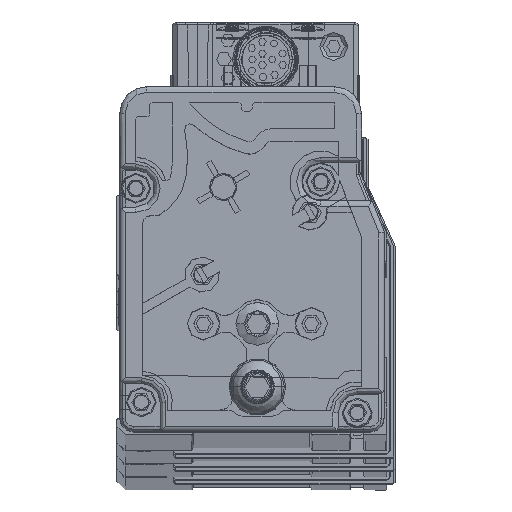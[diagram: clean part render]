
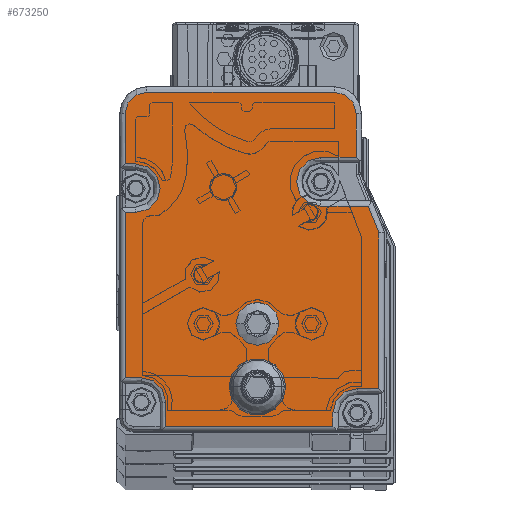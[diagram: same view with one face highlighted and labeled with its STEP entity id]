
A CAD part, top view. The second image highlights one B-rep face of the part: STEP entity #673250.
In plain terms, the highlighted planar face has unit normal (0, 0, 1).
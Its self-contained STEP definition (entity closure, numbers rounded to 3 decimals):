
#563300=CARTESIAN_POINT('',(-20.559,52.924,
2558.89));
#563310=DIRECTION('',(-1.,0.,0.));
#563320=VECTOR('',#563310,1.);
#563330=LINE('',#563300,#563320);
#563340=CARTESIAN_POINT('',(-25.759,52.924,
2558.89));
#563350=VERTEX_POINT('',#563340);
#563360=CARTESIAN_POINT('',(-32.309,52.924,
2558.89));
#563370=VERTEX_POINT('',#563360);
#563380=EDGE_CURVE('',#563350,#563370,#563330,.T.);
#580690=CARTESIAN_POINT('',(-30.059,2.124,
2558.89));
#580700=DIRECTION('',(0.,1.,0.));
#580710=VECTOR('',#580700,1.);
#580720=LINE('',#580690,#580710);
#580730=CARTESIAN_POINT('',(-30.059,3.124,
2558.89));
#580740=VERTEX_POINT('',#580730);
#580750=CARTESIAN_POINT('',(-30.059,5.624,
2558.89));
#580760=VERTEX_POINT('',#580750);
#580770=EDGE_CURVE('',#580740,#580760,#580720,.T.);
#615480=CARTESIAN_POINT('',(-21.559,2.124,
2558.89));
#615490=DIRECTION('',(0.,-1.,0.));
#615500=VECTOR('',#615490,1.);
#615510=LINE('',#615480,#615500);
#615520=CARTESIAN_POINT('',(-21.559,38.937,
2558.89));
#615530=VERTEX_POINT('',#615520);
#615540=CARTESIAN_POINT('',(-21.559,10.124,
2558.89));
#615550=VERTEX_POINT('',#615540);
#615560=EDGE_CURVE('',#615530,#615550,#615510,.T.);
#616220=CARTESIAN_POINT('',(-25.759,61.024,
2558.89));
#616230=VERTEX_POINT('',#616220);
#616260=CARTESIAN_POINT('',(-29.759,61.024,
2558.89));
#616270=DIRECTION('',(0.,0.,1.));
#616280=DIRECTION('',(1.,0.,0.));
#616290=AXIS2_PLACEMENT_3D('',#616260,#616270,#616280);
#616300=CIRCLE('',#616290,4.);
#616310=CARTESIAN_POINT('',(-29.759,65.024,
2558.89));
#616320=VERTEX_POINT('',#616310);
#616330=EDGE_CURVE('',#616230,#616320,#616300,.T.);
#617100=CARTESIAN_POINT('',(-20.559,12.124,
2558.89));
#617110=DIRECTION('',(1.,0.,0.));
#617120=VECTOR('',#617110,1.);
#617130=LINE('',#617100,#617120);
#617140=CARTESIAN_POINT('',(-68.559,12.124,
2558.89));
#617150=VERTEX_POINT('',#617140);
#617160=CARTESIAN_POINT('',(-65.559,12.124,
2558.89));
#617170=VERTEX_POINT('',#617160);
#617180=EDGE_CURVE('',#617150,#617170,#617130,.T.);
#618540=CARTESIAN_POINT('',(-68.559,2.124,
2558.89));
#618550=DIRECTION('',(0.,-1.,0.));
#618560=VECTOR('',#618550,1.);
#618570=LINE('',#618540,#618560);
#618580=CARTESIAN_POINT('',(-68.559,61.024,
2558.89));
#618590=VERTEX_POINT('',#618580);
#618600=CARTESIAN_POINT('',(-68.559,51.727,
2558.89));
#618610=VERTEX_POINT('',#618600);
#618620=EDGE_CURVE('',#618590,#618610,#618570,.T.);
#650110=CARTESIAN_POINT('',(-32.309,48.424,
2558.89));
#650120=DIRECTION('',(0.,0.,-1.));
#650130=DIRECTION('',(-1.,0.,0.));
#650140=AXIS2_PLACEMENT_3D('',#650110,#650120,#650130);
#650150=CIRCLE('',#650140,4.5);
#650160=CARTESIAN_POINT('',(-32.309,43.924,
2558.89));
#650170=VERTEX_POINT('',#650160);
#650180=EDGE_CURVE('',#650170,#563370,#650150,.T.);
#671560=CARTESIAN_POINT('',(-7.243,2.124,
2558.89));
#671570=DIRECTION('',(0.362,-0.932,0.));
#671580=VECTOR('',#671570,1.);
#671590=LINE('',#671560,#671580);
#671600=CARTESIAN_POINT('',(-23.499,43.924,
2558.89));
#671610=VERTEX_POINT('',#671600);
#671620=EDGE_CURVE('',#671610,#615530,#671590,.T.);
#671840=CARTESIAN_POINT('',(-20.265,1.758,
2558.89));
#671850=DIRECTION('',(0.,0.,-1.));
#671860=DIRECTION('',(-1.,0.,0.));
#671870=AXIS2_PLACEMENT_3D('',#671840,#671850,#671860);
#671880=PLANE('',#671870);
#671890=CARTESIAN_POINT('',(-44.056,10.421,
2558.89));
#671900=DIRECTION('',(0.,0.,-1.));
#671910=DIRECTION('',(-1.,0.,0.));
#671920=AXIS2_PLACEMENT_3D('',#671890,#671900,#671910);
#671930=CIRCLE('',#671920,5.);
#671940=CARTESIAN_POINT('',(-39.056,10.421,
2558.89));
#671950=VERTEX_POINT('',#671940);
#671960=CARTESIAN_POINT('',(-49.056,10.421,
2558.89));
#671970=VERTEX_POINT('',#671960);
#671980=EDGE_CURVE('',#671950,#671970,#671930,.T.);
#671990=ORIENTED_EDGE('',*,*,#671980,.T.);
#672000=EDGE_CURVE('',#671970,#671950,#671930,.T.);
#672010=ORIENTED_EDGE('',*,*,#672000,.T.);
#672020=EDGE_LOOP('',(#672010,#671990));
#672030=FACE_BOUND('',#672020,.T.);
#672040=CARTESIAN_POINT('',(-44.059,22.124,
2558.89));
#672050=DIRECTION('',(0.,0.,1.));
#672060=DIRECTION('',(-1.,0.,0.));
#672070=AXIS2_PLACEMENT_3D('',#672040,#672050,#672060);
#672080=CIRCLE('',#672070,4.);
#672090=CARTESIAN_POINT('',(-40.059,22.124,
2558.89));
#672100=VERTEX_POINT('',#672090);
#672110=CARTESIAN_POINT('',(-48.059,22.124,
2558.89));
#672120=VERTEX_POINT('',#672110);
#672130=EDGE_CURVE('',#672100,#672120,#672080,.T.);
#672140=ORIENTED_EDGE('',*,*,#672130,.F.);
#672150=EDGE_CURVE('',#672120,#672100,#672080,.T.);
#672160=ORIENTED_EDGE('',*,*,#672150,.F.);
#672170=EDGE_LOOP('',(#672160,#672140));
#672180=FACE_BOUND('',#672170,.T.);
#672190=CARTESIAN_POINT('',(-61.059,2.124,
2558.89));
#672200=DIRECTION('',(0.,-1.,0.));
#672210=VECTOR('',#672200,1.);
#672220=LINE('',#672190,#672210);
#672230=CARTESIAN_POINT('',(-61.059,7.624,
2558.89));
#672240=VERTEX_POINT('',#672230);
#672250=CARTESIAN_POINT('',(-61.059,3.124,
2558.89));
#672260=VERTEX_POINT('',#672250);
#672270=EDGE_CURVE('',#672240,#672260,#672220,.T.);
#672280=ORIENTED_EDGE('',*,*,#672270,.T.);
#672290=CARTESIAN_POINT('',(-65.559,7.624,
2558.89));
#672300=DIRECTION('',(0.,0.,-1.));
#672310=DIRECTION('',(-1.,0.,0.));
#672320=AXIS2_PLACEMENT_3D('',#672290,#672300,#672310);
#672330=CIRCLE('',#672320,4.5);
#672340=EDGE_CURVE('',#617170,#672240,#672330,.T.);
#672350=ORIENTED_EDGE('',*,*,#672340,.T.);
#672360=ORIENTED_EDGE('',*,*,#617180,.T.);
#672370=CARTESIAN_POINT('',(-68.559,2.124,
2558.89));
#672380=DIRECTION('',(0.,-1.,0.));
#672390=VECTOR('',#672380,1.);
#672400=LINE('',#672370,#672390);
#672410=CARTESIAN_POINT('',(-68.559,42.727,
2558.89));
#672420=VERTEX_POINT('',#672410);
#672430=EDGE_CURVE('',#672420,#617150,#672400,.T.);
#672440=ORIENTED_EDGE('',*,*,#672430,.T.);
#672450=CARTESIAN_POINT('',(-20.559,42.727,
2558.89));
#672460=DIRECTION('',(-1.,0.,0.));
#672470=VECTOR('',#672460,1.);
#672480=LINE('',#672450,#672470);
#672490=CARTESIAN_POINT('',(-66.559,42.727,
2558.89));
#672500=VERTEX_POINT('',#672490);
#672510=EDGE_CURVE('',#672500,#672420,#672480,.T.);
#672520=ORIENTED_EDGE('',*,*,#672510,.T.);
#672530=CARTESIAN_POINT('',(-66.559,47.227,
2558.89));
#672540=DIRECTION('',(0.,0.,-1.));
#672550=DIRECTION('',(-1.,0.,0.));
#672560=AXIS2_PLACEMENT_3D('',#672530,#672540,#672550);
#672570=CIRCLE('',#672560,4.5);
#672580=CARTESIAN_POINT('',(-66.559,51.727,
2558.89));
#672590=VERTEX_POINT('',#672580);
#672600=EDGE_CURVE('',#672590,#672500,#672570,.T.);
#672610=ORIENTED_EDGE('',*,*,#672600,.T.);
#672620=CARTESIAN_POINT('',(-20.559,51.727,
2558.89));
#672630=DIRECTION('',(1.,0.,0.));
#672640=VECTOR('',#672630,1.);
#672650=LINE('',#672620,#672640);
#672660=EDGE_CURVE('',#618610,#672590,#672650,.T.);
#672670=ORIENTED_EDGE('',*,*,#672660,.T.);
#672680=ORIENTED_EDGE('',*,*,#618620,.T.);
#672690=CARTESIAN_POINT('',(-64.559,61.024,
2558.89));
#672700=DIRECTION('',(0.,0.,1.));
#672710=DIRECTION('',(1.,0.,0.));
#672720=AXIS2_PLACEMENT_3D('',#672690,#672700,#672710);
#672730=CIRCLE('',#672720,4.);
#672740=CARTESIAN_POINT('',(-64.559,65.024,
2558.89));
#672750=VERTEX_POINT('',#672740);
#672760=EDGE_CURVE('',#672750,#618590,#672730,.T.);
#672770=ORIENTED_EDGE('',*,*,#672760,.T.);
#672780=CARTESIAN_POINT('',(-20.559,65.024,
2558.89));
#672790=DIRECTION('',(-1.,0.,0.));
#672800=VECTOR('',#672790,1.);
#672810=LINE('',#672780,#672800);
#672820=EDGE_CURVE('',#616320,#672750,#672810,.T.);
#672830=ORIENTED_EDGE('',*,*,#672820,.T.);
#672840=ORIENTED_EDGE('',*,*,#616330,.T.);
#672850=CARTESIAN_POINT('',(-25.759,2.124,
2558.89));
#672860=DIRECTION('',(0.,1.,0.));
#672870=VECTOR('',#672860,1.);
#672880=LINE('',#672850,#672870);
#672890=EDGE_CURVE('',#563350,#616230,#672880,.T.);
#672900=ORIENTED_EDGE('',*,*,#672890,.T.);
#672910=ORIENTED_EDGE('',*,*,#563380,.F.);
#672920=ORIENTED_EDGE('',*,*,#650180,.T.);
#672930=CARTESIAN_POINT('',(-20.559,43.924,
2558.89));
#672940=DIRECTION('',(-1.,0.,0.));
#672950=VECTOR('',#672940,1.);
#672960=LINE('',#672930,#672950);
#672970=EDGE_CURVE('',#671610,#650170,#672960,.T.);
#672980=ORIENTED_EDGE('',*,*,#672970,.T.);
#672990=ORIENTED_EDGE('',*,*,#671620,.F.);
#673000=ORIENTED_EDGE('',*,*,#615560,.F.);
#673010=CARTESIAN_POINT('',(-20.559,10.124,
2558.89));
#673020=DIRECTION('',(1.,0.,0.));
#673030=VECTOR('',#673020,1.);
#673040=LINE('',#673010,#673030);
#673050=CARTESIAN_POINT('',(-25.559,10.124,
2558.89));
#673060=VERTEX_POINT('',#673050);
#673070=EDGE_CURVE('',#673060,#615550,#673040,.T.);
#673080=ORIENTED_EDGE('',*,*,#673070,.T.);
#673090=CARTESIAN_POINT('',(-25.559,5.624,
2558.89));
#673100=DIRECTION('',(0.,0.,-1.));
#673110=DIRECTION('',(-1.,0.,0.));
#673120=AXIS2_PLACEMENT_3D('',#673090,#673100,#673110);
#673130=CIRCLE('',#673120,4.5);
#673140=EDGE_CURVE('',#580760,#673060,#673130,.T.);
#673150=ORIENTED_EDGE('',*,*,#673140,.T.);
#673160=ORIENTED_EDGE('',*,*,#580770,.T.);
#673170=CARTESIAN_POINT('',(-20.559,3.124,
2558.89));
#673180=DIRECTION('',(-1.,0.,0.));
#673190=VECTOR('',#673180,1.);
#673200=LINE('',#673170,#673190);
#673210=EDGE_CURVE('',#580740,#672260,#673200,.T.);
#673220=ORIENTED_EDGE('',*,*,#673210,.F.);
#673230=EDGE_LOOP('',(#673220,#673160,#673150,#673080,#673000,#672990,
#672980,#672920,#672910,#672900,#672840,#672830,#672770,#672680,#672670,
#672610,#672520,#672440,#672360,#672350,#672280));
#673240=FACE_OUTER_BOUND('',#673230,.T.);
#673250=ADVANCED_FACE('',(#672030,#672180,#673240),#671880,.F.);
